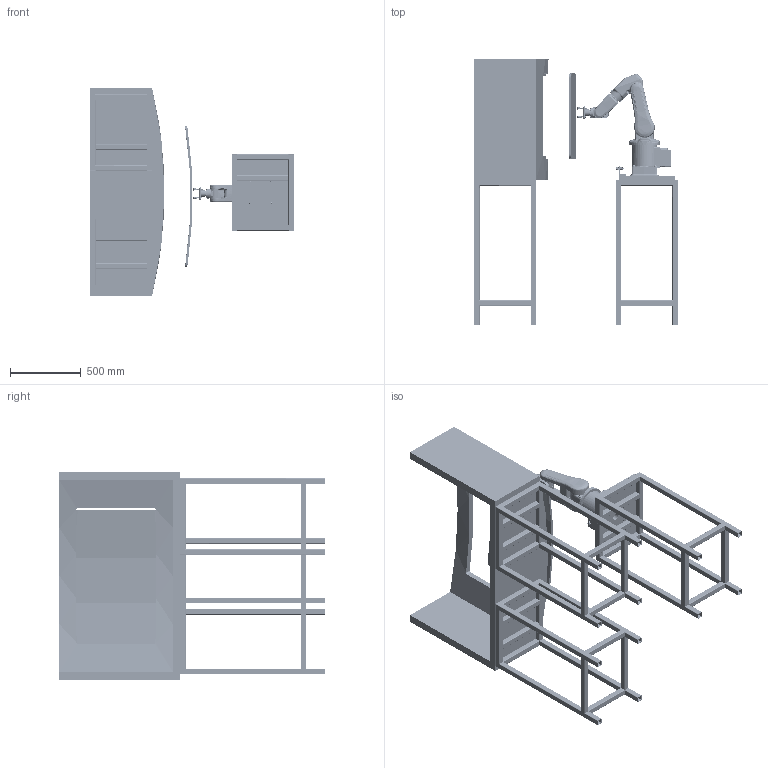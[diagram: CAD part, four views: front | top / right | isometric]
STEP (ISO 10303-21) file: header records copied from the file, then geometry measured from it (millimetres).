
FILE_DESCRIPTION(/* description */ (''),/* implementation_level */ '2;1');
FILE_NAME(/* name */ 'C:\Users\admin\Desktop\inventor\robot abb 120 telaio vetro\step\ABB robot irb 120-3 vetro.stp',/* time_stamp */ '2021-11-17T20:20:44+01:00',/* author */ ('admin'),/* organization */ (''),/* preprocessor_version */ 'ST-DEVELOPER v18.1',/* originating_system */ 'Autodesk Inventor 2022',/* authorisation */ '');
FILE_SCHEMA (('AUTOMOTIVE_DESIGN { 1 0 10303 214 3 1 1 }'));
Products named in the file (57): ABB robot irb 120-3; IRB_120-3_0_6_03; IRB_120-3_0_6_04; IRB_120-3_0_6_05; IRB_120-3_0_6_06; IRB_120-3_0_6_07; IRB_120-3_0_6_37; IRB_120-3_0_6_39; IRB_120-3_0_6_47; IRB_120-3_0_6_49; IRB_120-3_0_6_62; IRB_120-3_0_6_66; IRB_120-3_0_6_69; IRB_120-3_0_6_71; IRB_120-3_0_6_72; IRB_120-3_0_6_74; IRB_120-3_0_6_76; IRB_120-3_0_6_87; IRB_120-3_0_6_37_MIR; assieme_ventosa_pneumatica_x4_v2; fermo_x4_ventosa; assieme_ventosa_pneumatica; R.03.01.Cup2; R.03.02.Tube; R.03.03.Spring; R.03.06.Nut; R.03.05.Interface; R.03.04.Fitting; DIN 3771 - 5 x 1,8 - N - NBR 70(2); piano_robot; photoelectric sensor; sensor photo elektrik; sensor clamp; fermo_sensore; ANSI B18.3.1M - M10x1,5 x 40, FSHCSM; ANSI B18.3.1M - M4x0,7 x 20, FSHCSM; assieme; vetro; telaio_dal_vetro; telaio_tavolo_robot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
Assembly tree (66 placements, depth 4):
  ABB robot irb 120-3
    IRB_120-3_0_6_03
    IRB_120-3_0_6_04
    IRB_120-3_0_6_05
    IRB_120-3_0_6_06
    IRB_120-3_0_6_07
    IRB_120-3_0_6_37
    IRB_120-3_0_6_39
    IRB_120-3_0_6_47
    IRB_120-3_0_6_49
    IRB_120-3_0_6_62
    IRB_120-3_0_6_66
    IRB_120-3_0_6_69
    IRB_120-3_0_6_71
    IRB_120-3_0_6_72
    IRB_120-3_0_6_74
    IRB_120-3_0_6_76
    IRB_120-3_0_6_87
    IRB_120-3_0_6_37_MIR
    assieme_ventosa_pneumatica_x4_v2
      fermo_x4_ventosa
      assieme_ventosa_pneumatica  x4
        R.03.01.Cup2
        R.03.02.Tube
        R.03.03.Spring
        R.03.06.Nut
        R.03.05.Interface
        R.03.04.Fitting
        DIN 3771 - 5 x 1,8 - N - NBR 70(2)
    piano_robot
    photoelectric sensor
      sensor photo elektrik
      sensor clamp  x2
    fermo_sensore
    ANSI B18.3.1M - M10x1,5 x 40, FSHCSM  x4
    ANSI B18.3.1M - M4x0,7 x 20, FSHCSM  x2
    telaio_tavolo_robot  x3
      telaio_tavolo_robot_1
      Frame 1637083955443
        Reference Skeleton
        UNI EN 10305-5 - 40 x 40 x 2,5  - 437,8
        UNI EN 10305-5 - 40 x 40 x 2,5  - 537,8
        UNI EN 10305-5 - 40 x 40 x 2,5  - 437,8_1
        UNI EN 10305-5 - 40 x 40 x 2,5  - 537,8_1
        UNI EN 10305-5 - 40 x 40 x 2,5  - 1018,9
        UNI EN 10305-5 - 40 x 40 x 2,5  - 1018,9_1
        UNI EN 10305-5 - 40 x 40 x 2,5  - 1018,9_2
        UNI EN 10305-5 - 40 x 40 x 2,5  - 1018,9_3
        UNI EN 10305-5 - 40 x 40 x 2,5  - 367,5
        UNI EN 10305-5 - 40 x 40 x 2,5  - 467,5
        UNI EN 10305-5 - 40 x 40 x 2,5  - 367,5_1
        UNI EN 10305-5 - 40 x 40 x 2,5  - 467,5_1
        UNI EN 10305-5 - 40 x 40 x 2,5  - 367,5_2
        UNI EN 10305-5 - 40 x 40 x 2,5  - 367,5_3
    assieme
      vetro
      telaio_dal_vetro
Bounding box: 1440 x 1870 x 1464.22 mm (x, y, z)
Volume: 147498804.2 mm3; surface area: 14560969.1 mm2
Topology: 103 solids, 105 shells, 5746 faces, 15349 edges, 9835 vertices
Faces by surface type: cylinder 2475, plane 2200, bspline 688, cone 230, torus 143, sphere 10
Full cylindrical faces by diameter (mm): 2 x4, 2.5 x4, 3 x4, 3.3 x6, 4 x2, 4.2 x4, 5 x23, 5.25 x4, 5.5 x8, 6 x12, 7 x11, 8 x12, 8.5 x4, 10 x19, 12 x12, 14 x1, 15 x4, 15.5 x1, 16 x4, 16.5 x1, 17 x2, 17.8 x128, 20 x4, 20.5 x4, 22 x4, 40 x3, 44 x2, 45.4 x1, 46.22 x1, 50 x4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
Entity records: 196417 total; most frequent: CARTESIAN_POINT 109515, ORIENTED_EDGE 18762, DIRECTION 16586, EDGE_CURVE 9381, AXIS2_PLACEMENT_3D 6183, VERTEX_POINT 5988, LINE 4220, VECTOR 4220
